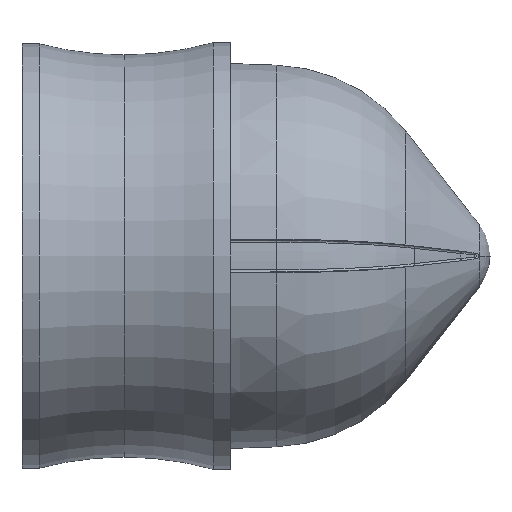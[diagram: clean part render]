
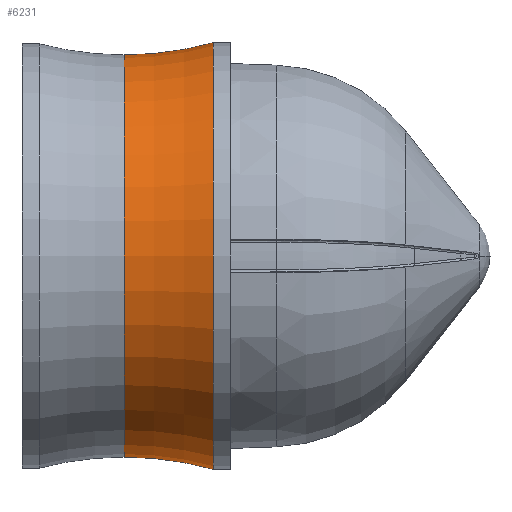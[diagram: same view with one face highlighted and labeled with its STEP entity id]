
A CAD part, left-side view. The second image highlights one B-rep face of the part: STEP entity #6231.
In plain terms, the highlighted toroidal (fillet/blend) face has major radius 19.768 mm and minor radius 12.294 mm.
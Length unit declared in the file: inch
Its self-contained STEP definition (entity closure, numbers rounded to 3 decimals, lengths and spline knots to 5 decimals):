
#291 = VERTEX_POINT ( 'NONE', #10801 ) ;
#493 = CARTESIAN_POINT ( 'NONE',  ( 0., 0.1907, 0.29427 ) ) ;
#507 = VERTEX_POINT ( 'NONE', #4437 ) ;
#1010 = AXIS2_PLACEMENT_3D ( 'NONE', #10651, #8715, #1243 ) ;
#1243 = DIRECTION ( 'NONE',  ( 0., 0., 1. ) ) ;
#1538 = EDGE_CURVE ( 'NONE', #291, #10449, #9834, .T. ) ;
#1596 = EDGE_LOOP ( 'NONE', ( #2172, #6941, #5939, #9812 ) ) ;
#1981 = DIRECTION ( 'NONE',  ( 0., 1., 0. ) ) ;
#2172 = ORIENTED_EDGE ( 'NONE', *, *, #5710, .F. ) ;
#3034 = DIRECTION ( 'NONE',  ( 0., 0., -1. ) ) ;
#3272 = DIRECTION ( 'NONE',  ( -1., 0., 0. ) ) ;
#3295 = VERTEX_POINT ( 'NONE', #493 ) ;
#3694 = FACE_OUTER_BOUND ( 'NONE', #1596, .T. ) ;
#4056 = CARTESIAN_POINT ( 'NONE',  ( 0., 0.1907, 0.77827 ) ) ;
#4437 = CARTESIAN_POINT ( 'NONE',  ( 0., 0.1907, -0.29427 ) ) ;
#4468 = CARTESIAN_POINT ( 'NONE',  ( 0., 0.1907, 0. ) ) ;
#4579 = CIRCLE ( 'NONE', #9717, 0.484 ) ;
#5355 = DIRECTION ( 'NONE',  ( 0., 0., 1. ) ) ;
#5468 = DIRECTION ( 'NONE',  ( 0., 1., 0. ) ) ;
#5710 = EDGE_CURVE ( 'NONE', #507, #3295, #9170, .T. ) ;
#5939 = ORIENTED_EDGE ( 'NONE', *, *, #1538, .T. ) ;
#6231 = ADVANCED_FACE ( 'NONE', ( #3694 ), #8111, .F. ) ;
#6274 = DIRECTION ( 'NONE',  ( 0., 0., 1. ) ) ;
#6390 = CARTESIAN_POINT ( 'NONE',  ( 0., 0.06, 0.31225 ) ) ;
#6941 = ORIENTED_EDGE ( 'NONE', *, *, #8557, .T. ) ;
#7060 = AXIS2_PLACEMENT_3D ( 'NONE', #4056, #3272, #7428 ) ;
#7428 = DIRECTION ( 'NONE',  ( 0., 0., 1. ) ) ;
#7897 = CARTESIAN_POINT ( 'NONE',  ( 0., 0.06, 0. ) ) ;
#8078 = DIRECTION ( 'NONE',  ( 1., 0., 0. ) ) ;
#8111 = TOROIDAL_SURFACE ( 'NONE', #8818, 0.77827, 0.484 ) ;
#8557 = EDGE_CURVE ( 'NONE', #507, #291, #4579, .T. ) ;
#8715 = DIRECTION ( 'NONE',  ( 0., 1., 0. ) ) ;
#8818 = AXIS2_PLACEMENT_3D ( 'NONE', #4468, #5468, #5355 ) ;
#9170 = CIRCLE ( 'NONE', #1010, 0.29427 ) ;
#9174 = EDGE_CURVE ( 'NONE', #3295, #10449, #10094, .T. ) ;
#9318 = AXIS2_PLACEMENT_3D ( 'NONE', #7897, #1981, #6274 ) ;
#9717 = AXIS2_PLACEMENT_3D ( 'NONE', #9737, #8078, #3034 ) ;
#9737 = CARTESIAN_POINT ( 'NONE',  ( 0., 0.1907, -0.77827 ) ) ;
#9812 = ORIENTED_EDGE ( 'NONE', *, *, #9174, .F. ) ;
#9834 = CIRCLE ( 'NONE', #9318, 0.31225 ) ;
#10094 = CIRCLE ( 'NONE', #7060, 0.484 ) ;
#10449 = VERTEX_POINT ( 'NONE', #6390 ) ;
#10651 = CARTESIAN_POINT ( 'NONE',  ( 0., 0.1907, 0. ) ) ;
#10801 = CARTESIAN_POINT ( 'NONE',  ( 0., 0.06, -0.31225 ) ) ;
